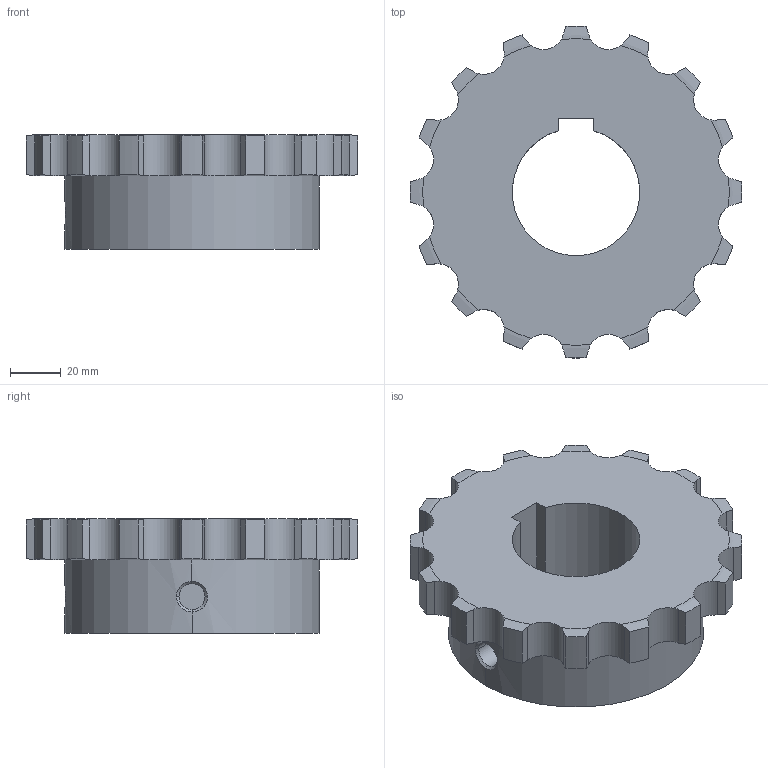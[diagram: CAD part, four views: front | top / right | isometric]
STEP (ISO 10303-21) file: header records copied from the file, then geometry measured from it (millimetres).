
FILE_DESCRIPTION((''),'2;1');
FILE_NAME('510-501-5016_PRT','2021-02-13T',('Brieden'),('Brieden'),'PRO/ENGINEER BY PARAMETRIC TECHNOLOGY CORPORATION, 2010160','PRO/ENGINEER BY PARAMETRIC TECHNOLOGY CORPORATION, 2010160','');
FILE_SCHEMA(('AUTOMOTIVE_DESIGN { 1 0 10303 214 1 1 1 1 }'));
Length unit declared in the file: millimetre
Products named in the file (1): 510-501-5016_PRT
Bounding box: 130.17 x 130.17 x 45 mm (x, y, z)
Volume: 322514.3 mm3; surface area: 45029.3 mm2
Topology: 1 solids, 1 shells, 117 faces, 333 edges, 220 vertices
Faces by surface type: cylinder 71, torus 32, plane 8, bspline 6
Entity records: 5854 total; most frequent: CARTESIAN_POINT 1927, ORIENTED_EDGE 666, DIRECTION 521, PRESENTATION_STYLE_ASSIGNMENT 334, STYLED_ITEM 334, CURVE_STYLE 333, EDGE_CURVE 333, VERTEX_POINT 220
